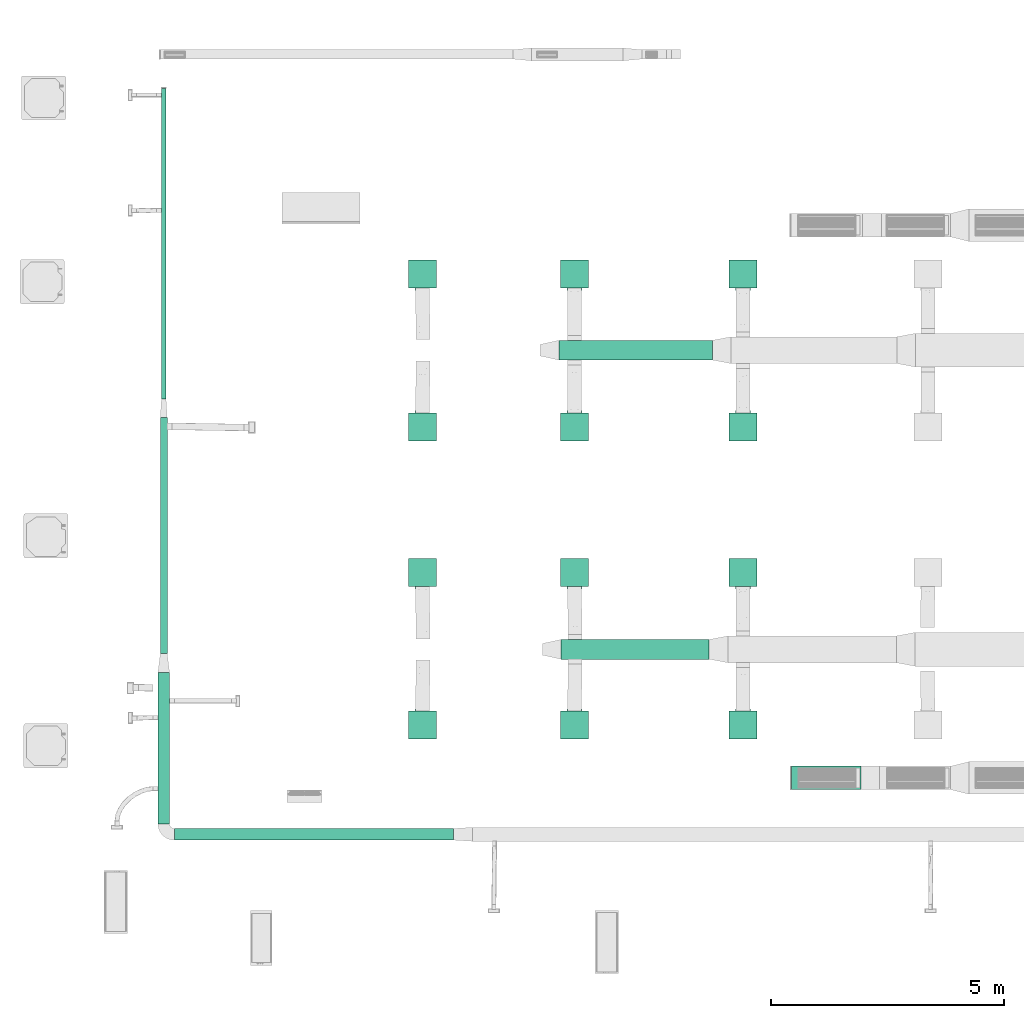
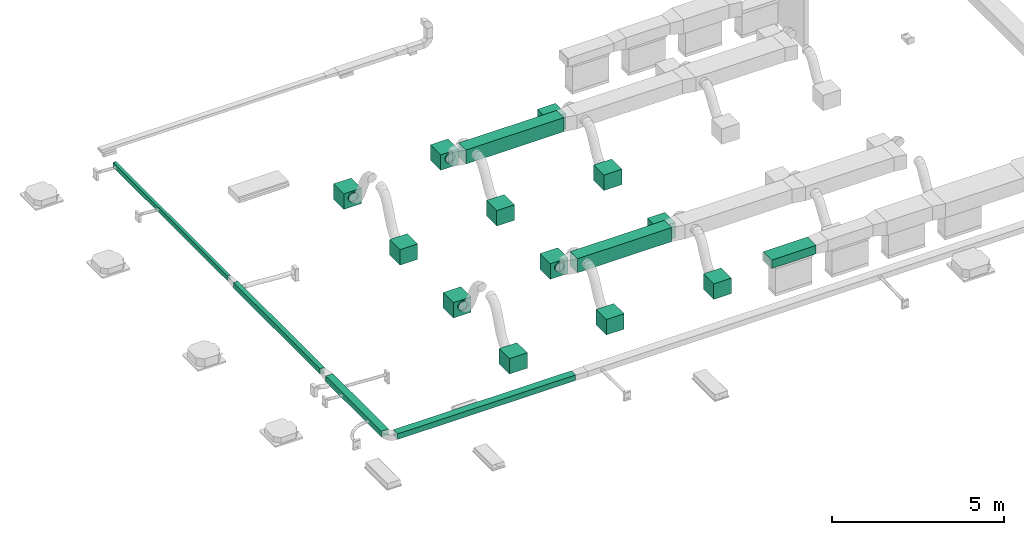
# One storey, part 2 of 60: 12 flow terminals, 7 flow segments.
"""IFC2X3 building model written with IfcOpenShell, lengths in millimetres."""

import ifcopenshell
import ifcopenshell.guid

model = None  # the IFC model being written
_history = None  # IfcOwnerHistory: only IFC2X3 demands one
_inside = {}  # id of a spatial element -> (the spatial element, [elements in it])
_under = {}  # id of a project, library or spatial element -> (it, [spatial elements below it])
_declared = {}  # id of a project -> (the project, [libraries it declares])
_typed = {}  # id of a type object -> (the type object, [elements of that type])
_made_of = {}  # id of a material, layer set ... -> (it, [elements and type objects made of it])


def new_model(schema):
    """Start an empty IFC model of exactly this schema.

    Asked for "IFC4X3", IfcOpenShell would pick the latest addendum, in which some entities
    have other attributes; the version numbers below select the first issue.
    IFC2X3 requires an IfcOwnerHistory on every rooted entity: one is made here for all.
    """
    global model, _history
    if schema == "IFC4X3":
        model = ifcopenshell.file(schema_version=(4, 3, 0, 0))
    else:
        model = ifcopenshell.file(schema=schema)
    _inside.clear()
    _under.clear()
    _declared.clear()
    _typed.clear()
    _made_of.clear()
    _history = None
    if model.schema == "IFC2X3":
        org = make("IfcOrganization", Name="unknown")
        user = make(
            "IfcPersonAndOrganization",
            ThePerson=make("IfcPerson", FamilyName="unknown"),
            TheOrganization=org,
        )
        app = make(
            "IfcApplication",
            ApplicationDeveloper=org,
            Version="unknown",
            ApplicationFullName="unknown",
            ApplicationIdentifier="unknown",
        )
        _history = make(
            "IfcOwnerHistory",
            OwningUser=user,
            OwningApplication=app,
            ChangeAction="ADDED",
            CreationDate=0,
        )
    return model


def make(cls, **values):
    """One entity of the class cls with the attributes given. An attribute that is None is left unset."""
    return model.create_entity(
        cls, **{name: value for name, value in values.items() if value is not None}
    )


def entity(cls, *values):
    """Any entity or typed value of the class cls, its attributes in the order of the schema. None: left unset."""
    e = model.create_entity(cls)
    for i, value in enumerate(values):
        if value is not None:
            e[i] = value
    return e


def rooted(cls, **values):
    """An entity with a GlobalId (a new one), such as an element, a storey or a relation."""
    return make(cls, GlobalId=ifcopenshell.guid.new(), OwnerHistory=_history, **values)


def si_unit(unit_type, name, prefix=None):
    """IfcSIUnit, for example si_unit("LENGTHUNIT", "METRE", prefix="MILLI")."""
    return make("IfcSIUnit", UnitType=unit_type, Prefix=prefix, Name=name)


def converted_unit(unit_type, name, factor, base, dimensions=None, offset=None):
    """IfcConversionBasedUnit, such as the inch: factor (a typed value) times the base unit."""
    return make(
        "IfcConversionBasedUnit"
        if offset is None
        else "IfcConversionBasedUnitWithOffset",
        ConversionOffset=offset,
        Dimensions=None
        if dimensions is None
        else entity("IfcDimensionalExponents", *dimensions),
        UnitType=unit_type,
        Name=name,
        ConversionFactor=make(
            "IfcMeasureWithUnit", ValueComponent=factor, UnitComponent=base
        ),
    )


def derived_unit(unit_type, elements):
    """IfcDerivedUnit: a product of units, each with its exponent."""
    return make(
        "IfcDerivedUnit",
        Elements=[
            make("IfcDerivedUnitElement", Unit=unit, Exponent=power)
            for unit, power in elements
        ],
        UnitType=unit_type,
    )


def assignment(units):
    """IfcUnitAssignment: the units of a project."""
    return None if units is None else make("IfcUnitAssignment", Units=units)


def point(xyz):
    """IfcCartesianPoint."""
    return None if xyz is None else make("IfcCartesianPoint", Coordinates=xyz)


def direction(xyz):
    """IfcDirection."""
    return None if xyz is None else make("IfcDirection", DirectionRatios=xyz)


def frame(location, z_axis=None, x_axis=None):
    """IfcAxis2Placement3D, a coordinate frame: its origin and axes. An axis left out is left unset."""
    return make(
        "IfcAxis2Placement3D",
        Location=point(location),
        Axis=direction(z_axis),
        RefDirection=direction(x_axis),
    )


def frame_2d(location, x_axis=None):
    """IfcAxis2Placement2D, a coordinate frame in the plane: its origin and x axis."""
    return make(
        "IfcAxis2Placement2D", Location=point(location), RefDirection=direction(x_axis)
    )


def origin():
    """The frame at (0, 0, 0) with its axes left unset."""
    return frame((0.0, 0.0, 0.0))


def origin_2d_with_axis():
    """The frame at (0, 0) in the plane with the x axis (1, 0) written out."""
    return frame_2d((0.0, 0.0), x_axis=(1.0, 0.0))


def place(relative_to, where):
    """IfcLocalPlacement: puts the frame where relative to a parent placement (None: the world)."""
    return make(
        "IfcLocalPlacement", PlacementRelTo=relative_to, RelativePlacement=where
    )


def context(
    kind, dimensions, precision=None, world=None, true_north=None, identifier=None
):
    """IfcGeometricRepresentationContext, for example the 3D "Model" context."""
    return make(
        "IfcGeometricRepresentationContext",
        ContextIdentifier=identifier,
        ContextType=kind,
        CoordinateSpaceDimension=dimensions,
        Precision=precision,
        WorldCoordinateSystem=world,
        TrueNorth=true_north,
    )


def subcontext(parent, identifier, kind, view, scale=None):
    """IfcGeometricRepresentationSubContext, for example "Body" below "Model"."""
    return make(
        "IfcGeometricRepresentationSubContext",
        ContextIdentifier=identifier,
        ContextType=kind,
        ParentContext=parent,
        TargetScale=scale,
        TargetView=view,
    )


def project(units=None, contexts=None):
    """IfcProject with its units and contexts."""
    return rooted(
        "IfcProject",
        Name="project",
        RepresentationContexts=contexts,
        UnitsInContext=assignment(units),
    )


def spatial(cls, under=None, at=None, **own):
    """A site, building, storey or space (cls), placed at a placement, below another one or the project."""
    s = rooted(cls, ObjectPlacement=at, **own)
    if under is not None:
        _under.setdefault(under.id(), (under, []))[1].append(s)
    return s


def profile(cls, at=None, kind="AREA", **sizes):
    """A parametric profile (cls). Its sizes go by their IFC names, for example OverallWidth=200.0."""
    return make(cls, ProfileType=kind, Position=at, **sizes)


def rectangle(**sizes):
    """IfcRectangleProfileDef."""
    return profile("IfcRectangleProfileDef", **sizes)


def extrude(swept, where, along, depth):
    """IfcExtrudedAreaSolid: the profile swept, set in the frame where, extruded along a direction by depth."""
    return make(
        "IfcExtrudedAreaSolid",
        SweptArea=swept,
        Position=where,
        ExtrudedDirection=direction(along),
        Depth=depth,
    )


def faces_of(points, faces, orient=None, outer=None):
    """IfcFace entities. A face is a list of loops; a loop is a list of indices into points, from 0.

    orient and outer hold one flag for each loop. By default every Orientation is true, the
    first loop of a face is its IfcFaceOuterBound and the others are IfcFaceBound.
    """
    made = []
    for i, loops in enumerate(faces):
        bounds = []
        for j, loop in enumerate(loops):
            is_outer = j == 0 if outer is None else outer[i][j]
            bounds.append(
                make(
                    "IfcFaceOuterBound" if is_outer else "IfcFaceBound",
                    Bound=make("IfcPolyLoop", Polygon=[points[k] for k in loop]),
                    Orientation=True if orient is None else orient[i][j],
                )
            )
        made.append(make("IfcFace", Bounds=bounds))
    return made


def face_set(faces, orient=None, outer=None):
    """The faces of one IfcConnectedFaceSet. surface_model builds it on its shared points."""
    return ("IfcConnectedFaceSet", faces, orient, outer)


def surface_model(cls, points, shells):
    """IfcFaceBasedSurfaceModel or IfcShellBasedSurfaceModel (cls): surfaces that need not close."""
    shared = [point(p) for p in points]
    made = [make(c, CfsFaces=faces_of(shared, fs, o, b)) for c, fs, o, b in shells]
    if cls == "IfcFaceBasedSurfaceModel":
        return make(cls, FbsmFaces=made)
    return make(cls, SbsmBoundary=made)


def shape(context_of_items, identifier, shape_type, items):
    """IfcShapeRepresentation: the items that make up one representation, for example the "Body"."""
    return make(
        "IfcShapeRepresentation",
        ContextOfItems=context_of_items,
        RepresentationIdentifier=identifier,
        RepresentationType=shape_type,
        Items=items,
    )


def source(mapping_origin, context_of_items, identifier, shape_type, items):
    """IfcRepresentationMap: a shape defined once, which mapped items show again and again."""
    return make(
        "IfcRepresentationMap",
        MappingOrigin=mapping_origin,
        MappedRepresentation=shape(context_of_items, identifier, shape_type, items),
    )


def transform(
    local_origin,
    x_axis=None,
    y_axis=None,
    z_axis=None,
    scale=None,
    scale2=None,
    scale3=None,
    uniform=True,
):
    """IfcCartesianTransformationOperator3D, or its non-uniform kind. x_axis, y_axis, z_axis: its Axis1, 2, 3."""
    if uniform:
        return make(
            "IfcCartesianTransformationOperator3D",
            Axis1=direction(x_axis),
            Axis2=direction(y_axis),
            LocalOrigin=point(local_origin),
            Scale=scale,
            Axis3=direction(z_axis),
        )
    return make(
        "IfcCartesianTransformationOperator3DnonUniform",
        Axis1=direction(x_axis),
        Axis2=direction(y_axis),
        LocalOrigin=point(local_origin),
        Scale=scale,
        Axis3=direction(z_axis),
        Scale2=scale2,
        Scale3=scale3,
    )


def mapped(mapping_source, mapping_target):
    """IfcMappedItem: shows the shape of a source again, moved by a transform."""
    return make(
        "IfcMappedItem", MappingSource=mapping_source, MappingTarget=mapping_target
    )


def material(Name=None, Category=None):
    """IfcMaterial."""
    return make("IfcMaterial", Name=Name, Category=Category)


def made_of(thing, what):
    """Note that an element or type object is made of a material, layer set ...; save() writes the relation."""
    if what is not None:
        _made_of.setdefault(what.id(), (what, []))[1].append(thing)
    return thing


def type_object(cls, material=None, **own):
    """A type object (cls), such as IfcWallType, which elements share."""
    return made_of(rooted(cls, **own), material)


def type_shapes(of_type, sources):
    """Give a type object the sources (RepresentationMaps) that its elements show as mapped items."""
    of_type.RepresentationMaps = sources


def element(
    cls,
    number,
    at=None,
    inside=None,
    cuts=None,
    type_object=None,
    material=None,
    context=None,
    identifier="Body",
    shape_type=None,
    held_by="IfcProductDefinitionShape",
    body=None,
    shapes=None,
    **own,
):
    """One element of the class cls, such as IfcWall. Its Tag is "e" and its number.

    at: its placement. inside: the storey or other place that contains it. cuts: it is an
    opening in that element (IfcRelVoidsElement). A single representation is given by context,
    identifier, shape_type and body (its items); several are given by shapes. held_by: the class
    of the entity that holds the representations. save() writes the other relations.
    """
    e = rooted(cls, Tag="e%d" % number, ObjectPlacement=at, **own)
    if body is not None:
        shapes = [shape(context, identifier, shape_type, body)]
    if shapes is not None:
        e.Representation = make(held_by, Representations=shapes)
    if inside is not None:
        _inside.setdefault(inside.id(), (inside, []))[1].append(e)
    if cuts is not None:
        rooted(
            "IfcRelVoidsElement", RelatingBuildingElement=cuts, RelatedOpeningElement=e
        )
    if type_object is not None:
        _typed.setdefault(type_object.id(), (type_object, []))[1].append(e)
    return made_of(e, material)


def aggregate(whole, parts):
    """IfcRelAggregates: a whole, such as a stair, and the parts it consists of."""
    return rooted("IfcRelAggregates", RelatingObject=whole, RelatedObjects=parts)


def save(model, path):
    """Write the relations noted so far, then the file.

    IfcRelAggregates (storeys below a building ...), IfcRelContainedInSpatialStructure (elements
    in a storey), IfcRelDefinesByType, IfcRelAssociatesMaterial and IfcRelDeclares: one each for
    every whole, place, type object, material and project.
    """
    for whole, parts in _under.values():
        aggregate(whole, parts)
    for where, things in _inside.values():
        rooted(
            "IfcRelContainedInSpatialStructure",
            RelatedElements=things,
            RelatingStructure=where,
        )
    for kind, things in _typed.values():
        rooted("IfcRelDefinesByType", RelatedObjects=things, RelatingType=kind)
    for what, things in _made_of.values():
        rooted("IfcRelAssociatesMaterial", RelatedObjects=things, RelatingMaterial=what)
    for by, libraries in _declared.values():
        rooted("IfcRelDeclares", RelatingContext=by, RelatedDefinitions=libraries)
    model.write(path)


model = new_model("IFC2X3")

# Units and contexts
model_context = context("Model", 3, precision=0.01, world=origin(), true_north=direction((6.123233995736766e-17, 1.0)))
body_context = subcontext(model_context, "Body", "Model", "MODEL_VIEW")
ifc_project = project(units=[si_unit("LENGTHUNIT", "METRE", prefix="MILLI"), converted_unit("PLANEANGLEUNIT", "DEGREE", entity("IfcPlaneAngleMeasure", 0.017453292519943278), si_unit("PLANEANGLEUNIT", "RADIAN"), dimensions=[0, 0, 0, 0, 0, 0, 0]), si_unit("AREAUNIT", "SQUARE_METRE"), derived_unit("THERMALTRANSMITTANCEUNIT", [(si_unit("MASSUNIT", "GRAM", prefix="KILO"), 1), (si_unit("THERMODYNAMICTEMPERATUREUNIT", "KELVIN"), -1), (si_unit("TIMEUNIT", "SECOND"), -3)])], contexts=[model_context])

# Site, building, storey
site_placement = place(None, origin())
site = spatial("IfcSite", under=ifc_project, at=site_placement, Name="Default", CompositionType="ELEMENT")
building_placement = place(site_placement, origin())
building = spatial("IfcBuilding", under=site, at=building_placement, Name="Praça Pedro II, 1301 - Centro (Sul), Teresina - PI, 64001-100", CompositionType="ELEMENT")
storey_placement = place(building_placement, frame((0.0, 0.0, 6040.0)))
storey = spatial("IfcBuildingStorey", under=building, at=storey_placement, Name="2PAV", CompositionType="ELEMENT", Elevation=6040.0)

# Flow terminals
ifc_material = material(Name="<Unnamed>")
air_terminal_type = type_object("IfcAirTerminalType", Name="VD-HM 600:VD-HM 600", PredefinedType="NOTDEFINED", material=ifc_material)
shared_shape = source(origin(), body_context, "Body", "SurfaceModel", [
    surface_model("IfcFaceBasedSurfaceModel", [(280.24999051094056, 280.0000057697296, -0.099993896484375), (-279.75000286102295, 280.0000057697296, -0.099993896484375), (-279.75000286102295, -280.0000057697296, -0.099993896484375), (280.24999051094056, -280.0000057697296, -0.099993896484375), (-300.75001101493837, 0.0, 510.50001697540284), (-300.75001101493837, -30.726726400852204, 507.4736755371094), (-300.75001101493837, 0.0, 353.0000012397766), (-300.75001101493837, -60.27264279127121, 498.51103219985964), (-300.75001101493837, -87.50230793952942, 483.9564700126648), (-300.75001101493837, -111.3693195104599, 464.3693298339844), (-300.75001101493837, -130.95645968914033, 440.5023273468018), (-300.75001101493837, -145.51102187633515, 413.272630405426), (-300.75001101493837, -154.47367429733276, 383.7267230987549), (-300.75001101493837, -157.4999975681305, 353.0000012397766), (-300.75001101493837, -154.47367429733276, 322.27327938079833), (-300.75001101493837, -145.51102187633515, 292.7273539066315), (-300.75001101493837, -130.95645968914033, 265.4976933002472), (-300.75001101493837, -111.3693195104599, 241.63069081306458), (-300.75001101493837, -87.50230793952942, 222.04353246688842), (-300.75001101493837, -60.27264279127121, 207.4889702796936), (-300.75001101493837, -30.726726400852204, 198.52632694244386), (-300.75001101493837, 0.0, 195.5000036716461), (-300.75001101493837, 30.726726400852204, 198.52632694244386), (-300.75001101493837, 60.27264279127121, 207.4889702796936), (-300.75001101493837, 87.50230793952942, 222.04353246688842), (-300.75001101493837, 111.3693195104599, 241.63069081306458), (-300.75001101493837, 130.95645968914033, 265.4976933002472), (-300.75001101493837, 145.51102187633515, 292.7273539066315), (-300.75001101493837, 154.47367429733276, 322.27327938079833), (-300.75001101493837, 157.4999975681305, 353.0000012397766), (-300.75001101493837, 154.47367429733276, 383.7267230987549), (-300.75001101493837, 145.51102187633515, 413.272630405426), (-300.75001101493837, 130.95645968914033, 440.5023273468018), (-300.75001101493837, 111.3693195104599, 464.3693298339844), (-300.75001101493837, 87.50230793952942, 483.9564700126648), (-300.75001101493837, 60.27264279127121, 498.51103219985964), (-300.75001101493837, 30.726726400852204, 507.4736755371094), (300.24998703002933, 300.0000022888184, 550.000004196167), (300.24998703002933, 300.0000022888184, 0.0), (-299.7499993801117, 300.0000022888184, 0.0), (-299.7499993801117, 300.0000022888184, 550.000004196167), (300.24998703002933, -300.0000022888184, 550.000004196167), (300.24998703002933, -300.0000022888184, 0.0), (-299.7499993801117, -300.0000022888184, 550.000004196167), (-299.7499993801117, -300.0000022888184, 0.0), (280.24999051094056, 280.0000057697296, -0.099993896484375), (10.250000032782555, 280.0000057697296, -0.099993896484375), (10.250000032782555, 256.6173123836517, -13.600005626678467), (280.24999051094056, 256.6173123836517, -13.600005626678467), (280.24999051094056, 253.0, -0.099993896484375), (10.250000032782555, 253.0, -0.099993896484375), (10.250000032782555, 229.61732525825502, -13.600005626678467), (280.24999051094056, 229.61732525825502, -13.600005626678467), (280.24999051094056, 225.99999518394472, -0.099993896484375), (10.250000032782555, 225.99999518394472, -0.099993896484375), (10.250000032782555, 202.61731996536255, -13.600005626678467), (280.24999051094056, 202.61731996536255, -13.600005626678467), (280.24999051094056, 199.000008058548, -0.099993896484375), (10.250000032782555, 199.000008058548, -0.099993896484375), (10.250000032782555, 175.6173146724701, -13.600005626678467), (280.24999051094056, 175.6173146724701, -13.600005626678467), (280.24999051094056, 172.00000276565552, -0.099993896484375), (10.250000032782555, 172.00000276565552, -0.099993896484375), (10.250000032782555, 148.61731846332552, -13.600005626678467), (280.24999051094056, 148.61731846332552, -13.600005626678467), (280.24999051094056, 144.99999747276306, -0.099993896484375), (10.250000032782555, 144.99999747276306, -0.099993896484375), (10.250000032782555, 121.61731317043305, -13.600005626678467), (280.24999051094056, 121.61731317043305, -13.600005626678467), (280.24999051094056, 118.00000126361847, -0.099993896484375), (10.250000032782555, 118.00000126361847, -0.099993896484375), (280.24999051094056, 94.61731696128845, -13.600005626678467), (10.250000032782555, 94.61731696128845, -13.600005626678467), (280.24999051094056, 90.99999597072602, -0.099993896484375), (10.250000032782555, 90.99999597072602, -0.099993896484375), (280.24999051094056, 67.61731621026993, -13.600005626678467), (10.250000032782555, 67.61731621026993, -13.600005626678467), (280.24999051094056, 63.99999976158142, -0.099993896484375), (10.250000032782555, 63.99999976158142, -0.099993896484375), (10.250000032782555, 40.61731545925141, -13.600005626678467), (280.24999051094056, 40.61731545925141, -13.600005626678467), (280.24999051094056, 36.999999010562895, -0.099993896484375), (10.250000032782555, 36.999999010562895, -0.099993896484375), (10.250000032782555, 13.617316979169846, -13.600005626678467), (280.24999051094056, 13.617316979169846, -13.600005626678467), (-9.74999989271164, -256.6173123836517, -13.600005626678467), (-279.75000286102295, -256.6173123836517, -13.600005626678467), (-279.75000286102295, -280.0000057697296, -0.099993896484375), (-9.74999989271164, -280.0000057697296, -0.099993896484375), (-9.74999989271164, -229.61732525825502, -13.600005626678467), (-279.75000286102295, -229.61732525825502, -13.600005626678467), (-279.75000286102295, -253.0, -0.099993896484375), (-9.74999989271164, -253.0, -0.099993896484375), (-9.74999989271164, -202.61731996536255, -13.600005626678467), (-279.75000286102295, -202.61731996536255, -13.600005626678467), (-279.75000286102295, -225.99999518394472, -0.099993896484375), (-9.74999989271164, -225.99999518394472, -0.099993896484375), (-9.74999989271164, -175.6173146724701, -13.600005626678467), (-279.75000286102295, -175.6173146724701, -13.600005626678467), (-279.75000286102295, -199.000008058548, -0.099993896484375), (-9.74999989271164, -199.000008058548, -0.099993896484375), (-9.74999989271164, -148.61731846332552, -13.600005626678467), (-279.75000286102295, -148.61731846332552, -13.600005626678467), (-279.75000286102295, -172.00000276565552, -0.099993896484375), (-9.74999989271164, -172.00000276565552, -0.099993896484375), (-9.74999989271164, -121.61731317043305, -13.600005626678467), (-279.75000286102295, -121.61731317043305, -13.600005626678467), (-279.75000286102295, -144.99999747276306, -0.099993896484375), (-9.74999989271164, -144.99999747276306, -0.099993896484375), (-9.74999989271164, -94.61731696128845, -13.600005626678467), (-279.75000286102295, -94.61731696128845, -13.600005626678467), (-279.75000286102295, -118.00000126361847, -0.099993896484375), (-9.74999989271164, -118.00000126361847, -0.099993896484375), (-9.74999989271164, -67.61731621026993, -13.600005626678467), (-279.75000286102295, -67.61731621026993, -13.600005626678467), (-279.75000286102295, -90.99999597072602, -0.099993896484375), (-9.74999989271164, -90.99999597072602, -0.099993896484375), (-9.74999989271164, -40.61731545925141, -13.600005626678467), (-279.75000286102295, -40.61731545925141, -13.600005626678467), (-279.75000286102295, -63.99999976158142, -0.099993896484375), (-9.74999989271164, -63.99999976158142, -0.099993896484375), (-9.74999989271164, -13.617316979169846, -13.600005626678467), (-279.75000286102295, -13.617316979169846, -13.600005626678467), (-279.75000286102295, -36.999999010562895, -0.099993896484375), (-9.74999989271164, -36.999999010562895, -0.099993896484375), (280.24999051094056, -10.000000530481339, -0.099993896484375), (256.100465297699, -10.000000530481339, -12.174765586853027), (256.100465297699, -280.0000057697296, -12.174765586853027), (280.24999051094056, -280.0000057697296, -0.099993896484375), (253.25000338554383, -10.000000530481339, -0.099993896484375), (229.10046000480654, -10.000000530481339, -12.174765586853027), (229.10046000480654, -280.0000057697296, -12.174765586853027), (253.25000338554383, -280.0000057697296, -0.099993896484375), (226.24999809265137, -10.000000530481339, -0.099993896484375), (202.10045471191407, -10.000000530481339, -12.174765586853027), (202.10045471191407, -280.0000057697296, -12.174765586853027), (226.24999809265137, -280.0000057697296, -0.099993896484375), (199.24999279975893, -10.000000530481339, -0.099993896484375), (175.10046758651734, -10.000000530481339, -12.174765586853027), (175.10046758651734, -280.0000057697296, -12.174765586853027), (199.24999279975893, -280.0000057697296, -0.099993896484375), (172.24998750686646, -10.000000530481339, -0.099993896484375), (148.10046229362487, -10.000000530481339, -12.174765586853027), (148.10046229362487, -280.0000057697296, -12.174765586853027), (172.24998750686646, -280.0000057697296, -0.099993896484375), (145.25000038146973, -10.000000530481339, -0.099993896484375), (121.10046608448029, -10.000000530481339, -12.174765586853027), (121.10046608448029, -280.0000057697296, -12.174765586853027), (145.25000038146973, -280.0000057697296, -0.099993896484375), (118.24999508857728, -10.000000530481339, -0.099993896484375), (94.10046079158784, -10.000000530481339, -12.174765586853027), (94.10046079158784, -280.0000057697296, -12.174765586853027), (118.24999508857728, -280.0000057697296, -0.099993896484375), (91.24999887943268, -10.000000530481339, -0.099993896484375), (67.10046912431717, -10.000000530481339, -12.174765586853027), (67.10046912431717, -280.0000057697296, -12.174765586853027), (91.24999887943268, -280.0000057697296, -0.099993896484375), (64.24999812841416, -10.000000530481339, -0.099993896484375), (40.100468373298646, -10.000000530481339, -12.174765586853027), (40.100468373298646, -280.0000057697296, -12.174765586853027), (64.24999812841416, -280.0000057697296, -0.099993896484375), (37.250001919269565, -10.000000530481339, -0.099993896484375), (13.100466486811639, -10.000000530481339, -12.174765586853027), (13.100466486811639, -280.0000057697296, -12.174765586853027), (37.250001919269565, -280.0000057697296, -0.099993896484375), (-279.75000286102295, 10.000000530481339, -0.099993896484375), (-255.6004776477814, 10.000000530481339, -12.174765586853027), (-255.6004776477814, 280.0000057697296, -12.174765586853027), (-279.75000286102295, 280.0000057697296, -0.099993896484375), (-252.7499975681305, 10.000000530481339, -0.099993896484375), (-228.60047235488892, 10.000000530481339, -12.174765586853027), (-228.60047235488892, 280.0000057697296, -12.174765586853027), (-252.7499975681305, 280.0000057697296, -0.099993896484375), (-225.75001044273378, 10.000000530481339, -0.099993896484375), (-201.60046706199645, 10.000000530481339, -12.174765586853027), (-201.60046706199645, 280.0000057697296, -12.174765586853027), (-225.75001044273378, 280.0000057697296, -0.099993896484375), (-198.75000514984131, 10.000000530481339, -0.099993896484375), (-174.60046176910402, 10.000000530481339, -12.174765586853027), (-174.60046176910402, 280.0000057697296, -12.174765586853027), (-198.75000514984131, 280.0000057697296, -0.099993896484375), (-171.74999985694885, 10.000000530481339, -0.099993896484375), (-147.60046555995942, 10.000000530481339, -12.174765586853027), (-147.60046555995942, 280.0000057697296, -12.174765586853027), (-171.74999985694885, 280.0000057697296, -0.099993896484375), (-144.75000364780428, 10.000000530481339, -0.099993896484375), (-120.60046935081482, 10.000000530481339, -12.174765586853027), (-120.60046935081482, 280.0000057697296, -12.174765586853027), (-144.75000364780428, 280.0000057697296, -0.099993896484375), (-117.75000743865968, 10.000000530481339, -0.099993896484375), (-93.60046405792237, 10.000000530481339, -12.174765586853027), (-93.60046405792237, 280.0000057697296, -12.174765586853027), (-117.75000743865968, 280.0000057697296, -0.099993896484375), (-90.75000214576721, 10.000000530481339, -0.099993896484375), (-66.60046330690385, 10.000000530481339, -12.174765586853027), (-66.60046330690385, 280.0000057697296, -12.174765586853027), (-90.75000214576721, 280.0000057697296, -0.099993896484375), (-63.75000139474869, 10.000000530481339, -0.099993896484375), (-39.60046709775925, 10.000000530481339, -12.174765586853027), (-39.60046709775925, 280.0000057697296, -12.174765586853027), (-63.75000139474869, 280.0000057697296, -0.099993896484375), (-36.75000064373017, 10.000000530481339, -0.099993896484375), (-12.600466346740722, 10.000000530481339, -12.174765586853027), (-12.600466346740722, 280.0000057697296, -12.174765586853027), (-36.75000064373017, 280.0000057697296, -0.099993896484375), (-299.7499993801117, 0.0, 510.50001697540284), (-299.7499993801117, 30.726726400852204, 507.4736755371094), (-347.74999465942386, 30.726726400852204, 507.4736755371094), (-347.74999465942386, 0.0, 510.50001697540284), (-299.7499993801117, 60.27264279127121, 498.51103219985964), (-347.74999465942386, 60.27264279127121, 498.51103219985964), (-299.7499993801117, 87.50230793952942, 483.9564700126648), (-347.74999465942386, 87.50230793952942, 483.9564700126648), (-299.7499993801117, 111.3693195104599, 464.3693298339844), (-347.74999465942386, 111.3693195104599, 464.3693298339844), (-299.7499993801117, 130.95645968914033, 440.5023273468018), (-347.74999465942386, 130.95645968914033, 440.5023273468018), (-299.7499993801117, 145.51102187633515, 413.272630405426), (-347.74999465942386, 145.51102187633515, 413.272630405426), (-299.7499993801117, 154.47367429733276, 383.7267230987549), (-347.74999465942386, 154.47367429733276, 383.7267230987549), (-299.7499993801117, 157.4999975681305, 353.0000012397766), (-347.74999465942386, 157.4999975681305, 353.0000012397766), (-299.7499993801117, 154.47367429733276, 322.27327938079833), (-347.74999465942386, 154.47367429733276, 322.27327938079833), (-299.7499993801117, 145.51102187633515, 292.7273539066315), (-347.74999465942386, 145.51102187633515, 292.7273539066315), (-299.7499993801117, 130.95645968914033, 265.4976933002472), (-347.74999465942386, 130.95645968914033, 265.4976933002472), (-299.7499993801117, 111.3693195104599, 241.63069081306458), (-347.74999465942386, 111.3693195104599, 241.63069081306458), (-299.7499993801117, 87.50230793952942, 222.04353246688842), (-347.74999465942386, 87.50230793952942, 222.04353246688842), (-299.7499993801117, 60.27264279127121, 207.4889702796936), (-347.74999465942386, 60.27264279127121, 207.4889702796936), (-299.7499993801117, 30.726726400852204, 198.52632694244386), (-347.74999465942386, 30.726726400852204, 198.52632694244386), (-299.7499993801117, 0.0, 195.5000036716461), (-347.74999465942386, 0.0, 195.5000036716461), (-299.7499993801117, -30.726726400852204, 198.52632694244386), (-347.74999465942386, -30.726726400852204, 198.52632694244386), (-299.7499993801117, -60.27264279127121, 207.4889702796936), (-347.74999465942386, -60.27264279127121, 207.4889702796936), (-299.7499993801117, -87.50230793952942, 222.04353246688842), (-347.74999465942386, -87.50230793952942, 222.04353246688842), (-299.7499993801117, -111.3693195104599, 241.63069081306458), (-347.74999465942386, -111.3693195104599, 241.63069081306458), (-299.7499993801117, -130.95645968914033, 265.4976933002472), (-347.74999465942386, -130.95645968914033, 265.4976933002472), (-299.7499993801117, -145.51102187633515, 292.7273539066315), (-347.74999465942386, -145.51102187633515, 292.7273539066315), (-299.7499993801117, -154.47367429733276, 322.27327938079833), (-347.74999465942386, -154.47367429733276, 322.27327938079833), (-299.7499993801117, -157.4999975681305, 353.0000012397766), (-347.74999465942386, -157.4999975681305, 353.0000012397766), (-299.7499993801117, -154.47367429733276, 383.7267230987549), (-347.74999465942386, -154.47367429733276, 383.7267230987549), (-299.7499993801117, -145.51102187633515, 413.272630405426), (-347.74999465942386, -145.51102187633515, 413.272630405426), (-299.7499993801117, -130.95645968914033, 440.5023273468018), (-347.74999465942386, -130.95645968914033, 440.5023273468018), (-299.7499993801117, -111.3693195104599, 464.3693298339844), (-347.74999465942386, -111.3693195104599, 464.3693298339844), (-299.7499993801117, -87.50230793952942, 483.9564700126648), (-347.74999465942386, -87.50230793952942, 483.9564700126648), (-299.7499993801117, -60.27264279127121, 498.51103219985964), (-347.74999465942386, -60.27264279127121, 498.51103219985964), (-299.7499993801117, -30.726726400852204, 507.4736755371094), (-347.74999465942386, -30.726726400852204, 507.4736755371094), (-279.75000286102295, 10.000000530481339, -0.20000596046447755), (-279.75000286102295, -10.000000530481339, -0.20000596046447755), (280.24999051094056, -10.000000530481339, -0.20000596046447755), (280.24999051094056, 10.000000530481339, -0.20000596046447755), (10.250000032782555, 280.0000057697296, -0.20000596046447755), (-9.74999989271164, 280.0000057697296, -0.20000596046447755), (-9.74999989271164, -280.0000057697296, -0.20000596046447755), (10.250000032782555, -280.0000057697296, -0.20000596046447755)], [face_set([[[0, 1, 2]], [[0, 2, 3]], [[4, 5, 6]], [[5, 7, 6]], [[7, 8, 6]], [[8, 9, 6]], [[9, 10, 6]], [[10, 11, 6]], [[11, 12, 6]], [[12, 13, 6]], [[13, 14, 6]], [[14, 15, 6]], [[15, 16, 6]], [[16, 17, 6]], [[17, 18, 6]], [[18, 19, 6]], [[19, 20, 6]], [[20, 21, 6]], [[21, 22, 6]], [[22, 23, 6]], [[23, 24, 6]], [[24, 25, 6]], [[25, 26, 6]], [[26, 27, 6]], [[27, 28, 6]], [[28, 29, 6]], [[29, 30, 6]], [[30, 31, 6]], [[31, 32, 6]], [[32, 33, 6]], [[33, 34, 6]], [[34, 35, 6]], [[35, 36, 6]], [[36, 4, 6]]]), face_set([[[37, 38, 39]], [[37, 39, 40]], [[41, 42, 38]], [[41, 38, 37]], [[43, 44, 42]], [[43, 42, 41]], [[40, 39, 44]], [[40, 44, 43]], [[43, 41, 37]], [[43, 37, 40]], [[44, 42, 38]], [[44, 38, 39]], [[45, 46, 47]], [[45, 47, 48]], [[49, 50, 51]], [[49, 51, 52]], [[53, 54, 55]], [[53, 55, 56]], [[57, 58, 59]], [[57, 59, 60]], [[61, 62, 63]], [[61, 63, 64]], [[65, 66, 67]], [[65, 67, 68]], [[69, 70, 71]], [[70, 72, 71]], [[73, 74, 75]], [[74, 76, 75]], [[77, 78, 79]], [[77, 79, 80]], [[81, 82, 83]], [[81, 83, 84]], [[85, 86, 87]], [[85, 87, 88]], [[89, 90, 91]], [[89, 91, 92]], [[93, 94, 95]], [[93, 95, 96]], [[97, 98, 99]], [[97, 99, 100]], [[101, 102, 103]], [[101, 103, 104]], [[105, 106, 107]], [[105, 107, 108]], [[109, 110, 111]], [[109, 111, 112]], [[113, 114, 115]], [[113, 115, 116]], [[117, 118, 119]], [[117, 119, 120]], [[121, 122, 123]], [[121, 123, 124]], [[125, 126, 127]], [[125, 127, 128]], [[129, 130, 131]], [[129, 131, 132]], [[133, 134, 135]], [[133, 135, 136]], [[137, 138, 139]], [[137, 139, 140]], [[141, 142, 143]], [[141, 143, 144]], [[145, 146, 147]], [[145, 147, 148]], [[149, 150, 151]], [[149, 151, 152]], [[153, 154, 155]], [[153, 155, 156]], [[157, 158, 159]], [[157, 159, 160]], [[161, 162, 163]], [[161, 163, 164]], [[165, 166, 167]], [[165, 167, 168]], [[169, 170, 171]], [[169, 171, 172]], [[173, 174, 175]], [[173, 175, 176]], [[177, 178, 179]], [[177, 179, 180]], [[181, 182, 183]], [[181, 183, 184]], [[185, 186, 187]], [[185, 187, 188]], [[189, 190, 191]], [[189, 191, 192]], [[193, 194, 195]], [[193, 195, 196]], [[197, 198, 199]], [[197, 199, 200]], [[201, 202, 203]], [[201, 203, 204]], [[205, 206, 207]], [[205, 207, 208]], [[206, 209, 210]], [[206, 210, 207]], [[209, 211, 212]], [[209, 212, 210]], [[211, 213, 214]], [[211, 214, 212]], [[213, 215, 216]], [[213, 216, 214]], [[215, 217, 218]], [[215, 218, 216]], [[217, 219, 220]], [[217, 220, 218]], [[219, 221, 222]], [[219, 222, 220]], [[221, 223, 224]], [[221, 224, 222]], [[223, 225, 226]], [[223, 226, 224]], [[225, 227, 228]], [[225, 228, 226]], [[227, 229, 230]], [[227, 230, 228]], [[229, 231, 232]], [[229, 232, 230]], [[231, 233, 234]], [[231, 234, 232]], [[233, 235, 236]], [[233, 236, 234]], [[235, 237, 238]], [[235, 238, 236]], [[237, 239, 240]], [[237, 240, 238]], [[239, 241, 242]], [[239, 242, 240]], [[241, 243, 244]], [[241, 244, 242]], [[243, 245, 246]], [[243, 246, 244]], [[245, 247, 248]], [[245, 248, 246]], [[247, 249, 250]], [[247, 250, 248]], [[249, 251, 252]], [[249, 252, 250]], [[251, 253, 254]], [[251, 254, 252]], [[253, 255, 256]], [[253, 256, 254]], [[255, 257, 258]], [[255, 258, 256]], [[257, 259, 260]], [[257, 260, 258]], [[259, 261, 262]], [[259, 262, 260]], [[261, 263, 264]], [[261, 264, 262]], [[263, 265, 266]], [[263, 266, 264]], [[265, 267, 268]], [[265, 268, 266]], [[267, 205, 208]], [[267, 208, 268]]]), face_set([[[269, 270, 271]], [[269, 271, 272]], [[273, 274, 275]], [[273, 275, 276]]])]),
])
type_shapes(air_terminal_type, [shared_shape])
for number, where, z_axis, x_axis in (
    (1, (15680.652778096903, -56621.15099926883, 1810.0), (0.0, 0.0, 1.0), (0.0, 1.0, 0.0)),
    (2, (15680.652778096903, -59889.65897434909, 1810.0), (0.0, 0.0, 1.0), (0.0, -1.0, 0.0)),
    (3, (15680.652778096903, -63012.16694942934, 1819.8020961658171), (0.0, 0.0, 1.0), (0.0, 1.0, 0.0)),
    (4, (15680.652778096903, -66280.67492450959, 1810.0), (0.0, 0.0, 1.0), (0.0, -1.0, 0.0)),
    (5, (18941.321085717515, -66280.67492450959, 2060.0), (0.0, 0.0, 1.0), (0.0, -1.0, 0.0)),
    (6, (22551.989393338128, -66280.67492450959, 2060.0), (0.0, 0.0, 1.0), (0.0, -1.0, 0.0)),
    (7, (18941.321085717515, -63012.16694942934, 2060.0), (0.0, 0.0, 1.0), (0.0, 1.0, 0.0)),
    (8, (22551.989393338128, -63012.16694942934, 2060.0), (0.0, 0.0, 1.0), (0.0, 1.0, 0.0)),
    (9, (18941.321085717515, -59889.65897434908, 2060.0), (0.0, 0.0, 1.0), (0.0, -1.0, 0.0)),
    (10, (22551.989393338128, -59889.65897434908, 2060.0), (0.0, 0.0, 1.0), (0.0, -1.0, 0.0)),
    (11, (18941.321085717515, -56621.15099926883, 2060.0), (0.0, 0.0, 1.0), (0.0, 1.0, 0.0)),
    (12, (22551.989393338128, -56621.15099926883, 2060.0), (0.0, 0.0, 1.0), (0.0, 1.0, 0.0)),
):
    element("IfcFlowTerminal", number, at=place(storey_placement, frame(where, z_axis=z_axis, x_axis=x_axis)), inside=storey, type_object=air_terminal_type, material=ifc_material, Name="VD-HM 600:VD-HM 600", ObjectType="VD-HM 600:VD-HM 600", context=body_context, shape_type="MappedRepresentation", body=[
        mapped(shared_shape, transform((0.0, 0.0, 0.0), scale=1.0)),
    ])

# Flow segments
duct_segment_type_1 = type_object("IfcDuctSegmentType", Name="Duto retangular:Raios cotovelos / tês", PredefinedType="NOTDEFINED")
flow_segment_1_placement = place(storey_placement, origin())
element("IfcFlowSegment", 13, at=flow_segment_1_placement, inside=storey, type_object=duct_segment_type_1, Name="Duto retangular:Raios cotovelos / tês", ObjectType="Duto retangular:Raios cotovelos / tês", context=body_context, shape_type="SweptSolid", body=[
    extrude(rectangle(XDim=3289.0971183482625, YDim=424.99999999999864, at=frame_2d((-1.1368683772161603e-12, 4.334310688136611e-12), x_axis=(1.0, 0.0))), frame((20250.55766576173, -58248.42127782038, 3230.0)), (0.0, 0.0, 1.0), 499.999999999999),
])
flow_segment_2_placement = place(storey_placement, origin())
element("IfcFlowSegment", 14, at=flow_segment_2_placement, inside=storey, type_object=duct_segment_type_1, Name="Duto retangular:Raios cotovelos / tês", ObjectType="Duto retangular:Raios cotovelos / tês", context=body_context, shape_type="SweptSolid", body=[
    extrude(rectangle(XDim=3175.9689623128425, YDim=424.9999999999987, at=frame_2d((2.2737367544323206e-12, 0.0), x_axis=(1.0, 0.0))), frame((20240.869431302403, -64657.4080354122, 3230.0)), (0.0, 0.0, 1.0), 499.999999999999),
])
duct_segment_type_2 = type_object("IfcDuctSegmentType", Name="Duto retangular:Raios cotovelos / torneiras", PredefinedType="NOTDEFINED")
flow_segment_3_placement = place(storey_placement, origin())
element("IfcFlowSegment", 15, at=flow_segment_3_placement, inside=storey, type_object=duct_segment_type_2, Name="Duto retangular:Raios cotovelos / torneiras", ObjectType="Duto retangular:Raios cotovelos / torneiras", context=body_context, shape_type="SweptSolid", body=[
    extrude(rectangle(XDim=1487.500000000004, YDim=499.999999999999, at=frame_2d((2.1600499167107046e-12, 4.334310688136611e-12), x_axis=(1.0, 0.0))), frame((24331.485424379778, -67411.94163590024, 3350.0), z_axis=(0.0, 0.0, 1.0), x_axis=(-1.0, 0.0, 0.0)), (0.0, 0.0, 1.0), 299.9999999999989),
])
flow_segment_4_placement = place(storey_placement, origin())
element("IfcFlowSegment", 16, at=flow_segment_4_placement, inside=storey, type_object=duct_segment_type_2, Name="Duto retangular:Raios cotovelos / torneiras", ObjectType="Duto retangular:Raios cotovelos / torneiras", context=body_context, shape_type="SweptSolid", body=[
    extrude(rectangle(XDim=3245.4749630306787, YDim=249.9999999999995, at=origin_2d_with_axis()), frame((10142.51112288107, -66772.50671123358, 2550.0), z_axis=(0.0, 0.0, 1.0), x_axis=(0.0, 1.0, 0.0)), (0.0, 0.0, 1.0), 200.0),
])
flow_segment_5_placement = place(storey_placement, origin())
element("IfcFlowSegment", 17, at=flow_segment_5_placement, inside=storey, type_object=duct_segment_type_2, Name="Duto retangular:Raios cotovelos / torneiras", ObjectType="Duto retangular:Raios cotovelos / torneiras", context=body_context, shape_type="SweptSolid", body=[
    extrude(rectangle(XDim=5987.499999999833, YDim=250.0000000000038, at=frame_2d((1.1368683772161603e-12, -4.334310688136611e-12), x_axis=(1.0, 0.0))), frame((13361.261122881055, -68620.24419274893, 2550.0)), (0.0, 0.0, 1.0), 200.0),
])
flow_segment_6_placement = place(storey_placement, origin())
element("IfcFlowSegment", 18, at=flow_segment_6_placement, inside=storey, type_object=duct_segment_type_2, Name="Duto retangular:Raios cotovelos / torneiras", ObjectType="Duto retangular:Raios cotovelos / torneiras", context=body_context, shape_type="SweptSolid", body=[
    extrude(rectangle(XDim=6652.341213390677, YDim=100.0000000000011, at=origin_2d_with_axis()), frame((10142.51112288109, -55966.461178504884, 2562.5000000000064), z_axis=(0.0, 0.0, 1.0), x_axis=(0.0, -1.0, 0.0)), (0.0, 0.0, 1.0), 174.9999999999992),
])
flow_segment_7_placement = place(storey_placement, origin())
element("IfcFlowSegment", 19, at=flow_segment_7_placement, inside=storey, type_object=duct_segment_type_2, Name="Duto retangular:Raios cotovelos / torneiras", ObjectType="Duto retangular:Raios cotovelos / torneiras", context=body_context, shape_type="SweptSolid", body=[
    extrude(rectangle(XDim=5057.137444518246, YDim=150.00000000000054, at=frame_2d((4.547473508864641e-12, 0.0), x_axis=(1.0, 0.0))), frame((10142.51112288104, -62221.200507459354, 2550.0), z_axis=(0.0, 0.0, 1.0), x_axis=(0.0, 1.0, 0.0)), (0.0, 0.0, 1.0), 200.0),
])

save(model, "model.ifc")
